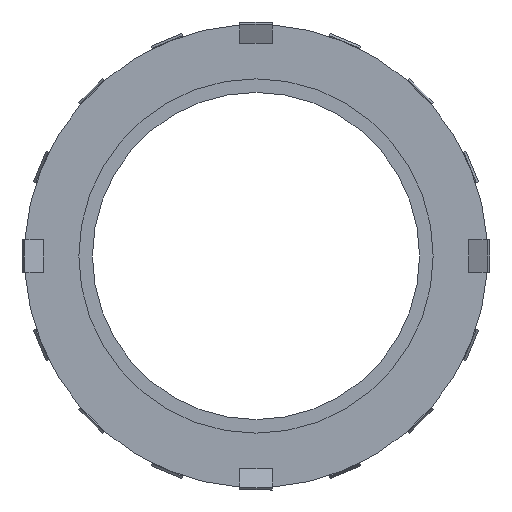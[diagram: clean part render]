
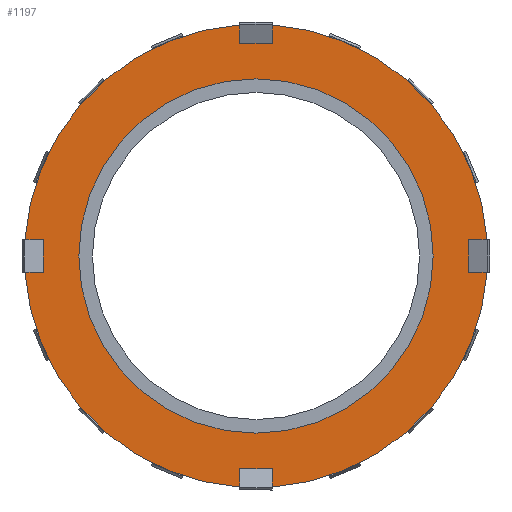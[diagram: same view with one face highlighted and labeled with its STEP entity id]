
A CAD part, left-side view. The second image highlights one B-rep face of the part: STEP entity #1197.
In plain terms, the highlighted planar face has unit normal (-1, 0, 0).
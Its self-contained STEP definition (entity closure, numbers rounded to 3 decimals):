
#870 = VERTEX_POINT ( 'NONE', #2933 ) ;
#872 = EDGE_CURVE ( 'NONE', #870, #873, #2904, .T. ) ;
#873 = VERTEX_POINT ( 'NONE', #2899 ) ;
#889 = VERTEX_POINT ( 'NONE', #2879 ) ;
#892 = EDGE_CURVE ( 'NONE', #893, #1096, #2923, .T. ) ;
#893 = VERTEX_POINT ( 'NONE', #2919 ) ;
#894 = ORIENTED_EDGE ( 'NONE', *, *, #895, .F. ) ;
#895 = EDGE_CURVE ( 'NONE', #1066, #893, #2918, .T. ) ;
#896 = ORIENTED_EDGE ( 'NONE', *, *, #1013, .T. ) ;
#897 = ORIENTED_EDGE ( 'NONE', *, *, #898, .F. ) ;
#898 = EDGE_CURVE ( 'NONE', #899, #1014, #2914, .T. ) ;
#899 = VERTEX_POINT ( 'NONE', #2910 ) ;
#982 = EDGE_CURVE ( 'NONE', #983, #984, #3082, .T. ) ;
#983 = VERTEX_POINT ( 'NONE', #3078 ) ;
#984 = VERTEX_POINT ( 'NONE', #3077 ) ;
#1013 = EDGE_CURVE ( 'NONE', #1066, #1014, #3023, .T. ) ;
#1014 = VERTEX_POINT ( 'NONE', #3019 ) ;
#1066 = VERTEX_POINT ( 'NONE', #3304 ) ;
#1094 = ORIENTED_EDGE ( 'NONE', *, *, #1183, .F. ) ;
#1095 = EDGE_CURVE ( 'NONE', #1096, #984, #3287, .T. ) ;
#1096 = VERTEX_POINT ( 'NONE', #3283 ) ;
#1116 = ORIENTED_EDGE ( 'NONE', *, *, #892, .F. ) ;
#1126 = ORIENTED_EDGE ( 'NONE', *, *, #1127, .F. ) ;
#1127 = EDGE_CURVE ( 'NONE', #1234, #1233, #3372, .T. ) ;
#1128 = ORIENTED_EDGE ( 'NONE', *, *, #1261, .F. ) ;
#1154 = EDGE_CURVE ( 'NONE', #1155, #889, #3250, .T. ) ;
#1155 = VERTEX_POINT ( 'NONE', #3245 ) ;
#1157 = ORIENTED_EDGE ( 'NONE', *, *, #982, .T. ) ;
#1158 = VERTEX_POINT ( 'NONE', #3239 ) ;
#1159 = EDGE_CURVE ( 'NONE', #983, #1212, #3343, .T. ) ;
#1161 = ORIENTED_EDGE ( 'NONE', *, *, #1095, .F. ) ;
#1183 = EDGE_CURVE ( 'NONE', #1158, #899, #3464, .T. ) ;
#1197 = ADVANCED_FACE ( 'NONE', ( #3578, #3577 ), #3576, .F. ) ;
#1198 = EDGE_LOOP ( 'NONE', ( #1199, #1200 ) ) ;
#1199 = ORIENTED_EDGE ( 'NONE', *, *, #1215, .F. ) ;
#1200 = ORIENTED_EDGE ( 'NONE', *, *, #872, .F. ) ;
#1206 = EDGE_CURVE ( 'NONE', #1207, #1208, #3534, .T. ) ;
#1207 = VERTEX_POINT ( 'NONE', #3493 ) ;
#1208 = VERTEX_POINT ( 'NONE', #3492 ) ;
#1209 = EDGE_LOOP ( 'NONE', ( #1210, #1214, #1157, #1161, #1116, #894, #896, #897, #1094, #1238, #1230, #1231, #1126, #1128, #1262, #1263 ) ) ;
#1210 = ORIENTED_EDGE ( 'NONE', *, *, #1211, .F. ) ;
#1211 = EDGE_CURVE ( 'NONE', #1212, #1213, #3491, .T. ) ;
#1212 = VERTEX_POINT ( 'NONE', #3487 ) ;
#1213 = VERTEX_POINT ( 'NONE', #3486 ) ;
#1214 = ORIENTED_EDGE ( 'NONE', *, *, #1159, .F. ) ;
#1215 = EDGE_CURVE ( 'NONE', #873, #870, #3485, .T. ) ;
#1230 = ORIENTED_EDGE ( 'NONE', *, *, #1206, .T. ) ;
#1231 = ORIENTED_EDGE ( 'NONE', *, *, #1232, .F. ) ;
#1232 = EDGE_CURVE ( 'NONE', #1233, #1208, #3406, .T. ) ;
#1233 = VERTEX_POINT ( 'NONE', #3402 ) ;
#1234 = VERTEX_POINT ( 'NONE', #3401 ) ;
#1238 = ORIENTED_EDGE ( 'NONE', *, *, #1286, .F. ) ;
#1261 = EDGE_CURVE ( 'NONE', #1155, #1234, #3469, .T. ) ;
#1262 = ORIENTED_EDGE ( 'NONE', *, *, #1154, .T. ) ;
#1263 = ORIENTED_EDGE ( 'NONE', *, *, #1264, .F. ) ;
#1264 = EDGE_CURVE ( 'NONE', #1213, #889, #3461, .T. ) ;
#1286 = EDGE_CURVE ( 'NONE', #1207, #1158, #3542, .T. ) ;
#2879 = CARTESIAN_POINT ( 'NONE',  ( 9., 3., -42.394 ) ) ;
#2899 = CARTESIAN_POINT ( 'NONE',  ( 9., 0., 32.5 ) ) ;
#2900 = DIRECTION ( 'NONE',  ( 0., 0., 1. ) ) ;
#2901 = DIRECTION ( 'NONE',  ( -1., 0., 0. ) ) ;
#2902 = CARTESIAN_POINT ( 'NONE',  ( 9., 0., 0. ) ) ;
#2903 = AXIS2_PLACEMENT_3D ( 'NONE', #2902, #2901, #2900 ) ;
#2904 = CIRCLE ( 'NONE', #2903, 32.5 ) ;
#2910 = CARTESIAN_POINT ( 'NONE',  ( 9., -3., 39. ) ) ;
#2911 = DIRECTION ( 'NONE',  ( 0., 0., 1. ) ) ;
#2912 = VECTOR ( 'NONE', #2911, 1000. ) ;
#2913 = CARTESIAN_POINT ( 'NONE',  ( 9., -3., 42.394 ) ) ;
#2914 = LINE ( 'NONE', #2913, #2912 ) ;
#2915 = DIRECTION ( 'NONE',  ( 0., 1., 0. ) ) ;
#2916 = VECTOR ( 'NONE', #2915, 1000. ) ;
#2917 = CARTESIAN_POINT ( 'NONE',  ( 9., -42.394, 3. ) ) ;
#2918 = LINE ( 'NONE', #2917, #2916 ) ;
#2919 = CARTESIAN_POINT ( 'NONE',  ( 9., -39., 3. ) ) ;
#2920 = DIRECTION ( 'NONE',  ( 0., 0., -1. ) ) ;
#2921 = VECTOR ( 'NONE', #2920, 1000. ) ;
#2922 = CARTESIAN_POINT ( 'NONE',  ( 9., -39., 3. ) ) ;
#2923 = LINE ( 'NONE', #2922, #2921 ) ;
#2933 = CARTESIAN_POINT ( 'NONE',  ( 9., 0., -32.5 ) ) ;
#3019 = CARTESIAN_POINT ( 'NONE',  ( 9., -3., 42.394 ) ) ;
#3020 = DIRECTION ( 'NONE',  ( 0., 0., 1. ) ) ;
#3021 = DIRECTION ( 'NONE',  ( -1., 0., 0. ) ) ;
#3022 = AXIS2_PLACEMENT_3D ( 'NONE', #3039, #3021, #3020 ) ;
#3023 = CIRCLE ( 'NONE', #3022, 42.5 ) ;
#3039 = CARTESIAN_POINT ( 'NONE',  ( 9., 0., 0. ) ) ;
#3077 = CARTESIAN_POINT ( 'NONE',  ( 9., -42.394, -3. ) ) ;
#3078 = CARTESIAN_POINT ( 'NONE',  ( 9., -3., -42.394 ) ) ;
#3079 = DIRECTION ( 'NONE',  ( 0., 0., 1. ) ) ;
#3080 = DIRECTION ( 'NONE',  ( -1., 0., 0. ) ) ;
#3081 = AXIS2_PLACEMENT_3D ( 'NONE', #3087, #3080, #3079 ) ;
#3082 = CIRCLE ( 'NONE', #3081, 42.5 ) ;
#3087 = CARTESIAN_POINT ( 'NONE',  ( 9., 0., 0. ) ) ;
#3239 = CARTESIAN_POINT ( 'NONE',  ( 9., 3., 39. ) ) ;
#3245 = CARTESIAN_POINT ( 'NONE',  ( 9., 42.394, -3. ) ) ;
#3246 = DIRECTION ( 'NONE',  ( 0., 0., 1. ) ) ;
#3247 = DIRECTION ( 'NONE',  ( -1., 0., 0. ) ) ;
#3248 = CARTESIAN_POINT ( 'NONE',  ( 9., 0., 0. ) ) ;
#3249 = AXIS2_PLACEMENT_3D ( 'NONE', #3248, #3247, #3246 ) ;
#3250 = CIRCLE ( 'NONE', #3249, 42.5 ) ;
#3283 = CARTESIAN_POINT ( 'NONE',  ( 9., -39., -3. ) ) ;
#3284 = DIRECTION ( 'NONE',  ( 0., -1., 0. ) ) ;
#3285 = VECTOR ( 'NONE', #3284, 1000. ) ;
#3286 = CARTESIAN_POINT ( 'NONE',  ( 9., -42.394, -3. ) ) ;
#3287 = LINE ( 'NONE', #3286, #3285 ) ;
#3304 = CARTESIAN_POINT ( 'NONE',  ( 9., -42.394, 3. ) ) ;
#3340 = DIRECTION ( 'NONE',  ( 0., 0., 1. ) ) ;
#3341 = VECTOR ( 'NONE', #3340, 1000. ) ;
#3342 = CARTESIAN_POINT ( 'NONE',  ( 9., -3., -42.394 ) ) ;
#3343 = LINE ( 'NONE', #3342, #3341 ) ;
#3369 = DIRECTION ( 'NONE',  ( 0., 0., 1. ) ) ;
#3370 = VECTOR ( 'NONE', #3369, 1000. ) ;
#3371 = CARTESIAN_POINT ( 'NONE',  ( 9., 39., -3. ) ) ;
#3372 = LINE ( 'NONE', #3371, #3370 ) ;
#3401 = CARTESIAN_POINT ( 'NONE',  ( 9., 39., -3. ) ) ;
#3402 = CARTESIAN_POINT ( 'NONE',  ( 9., 39., 3. ) ) ;
#3403 = DIRECTION ( 'NONE',  ( 0., 1., 0. ) ) ;
#3404 = VECTOR ( 'NONE', #3403, 1000. ) ;
#3405 = CARTESIAN_POINT ( 'NONE',  ( 9., 42.394, 3. ) ) ;
#3406 = LINE ( 'NONE', #3405, #3404 ) ;
#3458 = DIRECTION ( 'NONE',  ( 0., 0., -1. ) ) ;
#3459 = VECTOR ( 'NONE', #3458, 1000. ) ;
#3460 = CARTESIAN_POINT ( 'NONE',  ( 9., 3., -42.394 ) ) ;
#3461 = LINE ( 'NONE', #3460, #3459 ) ;
#3462 = DIRECTION ( 'NONE',  ( 0., -1., 0. ) ) ;
#3463 = VECTOR ( 'NONE', #3462, 1000. ) ;
#3464 = LINE ( 'NONE', #3582, #3584 ) ;
#3469 = LINE ( 'NONE', #3474, #3463 ) ;
#3474 = CARTESIAN_POINT ( 'NONE',  ( 9., 42.394, -3. ) ) ;
#3481 = DIRECTION ( 'NONE',  ( 0., 0., 1. ) ) ;
#3482 = DIRECTION ( 'NONE',  ( -1., 0., 0. ) ) ;
#3483 = CARTESIAN_POINT ( 'NONE',  ( 9., 0., 0. ) ) ;
#3484 = AXIS2_PLACEMENT_3D ( 'NONE', #3483, #3482, #3481 ) ;
#3485 = CIRCLE ( 'NONE', #3484, 32.5 ) ;
#3486 = CARTESIAN_POINT ( 'NONE',  ( 9., 3., -39. ) ) ;
#3487 = CARTESIAN_POINT ( 'NONE',  ( 9., -3., -39. ) ) ;
#3488 = DIRECTION ( 'NONE',  ( 0., 1., 0. ) ) ;
#3489 = VECTOR ( 'NONE', #3488, 1000. ) ;
#3490 = CARTESIAN_POINT ( 'NONE',  ( 9., -3., -39. ) ) ;
#3491 = LINE ( 'NONE', #3490, #3489 ) ;
#3492 = CARTESIAN_POINT ( 'NONE',  ( 9., 42.394, 3. ) ) ;
#3493 = CARTESIAN_POINT ( 'NONE',  ( 9., 3., 42.394 ) ) ;
#3526 = DIRECTION ( 'NONE',  ( 0., 0., -1. ) ) ;
#3527 = DIRECTION ( 'NONE',  ( 1., 0., 0. ) ) ;
#3528 = CARTESIAN_POINT ( 'NONE',  ( 9., 42.5, 0. ) ) ;
#3529 = AXIS2_PLACEMENT_3D ( 'NONE', #3528, #3527, #3526 ) ;
#3530 = DIRECTION ( 'NONE',  ( 0., 0., 1. ) ) ;
#3531 = DIRECTION ( 'NONE',  ( -1., 0., 0. ) ) ;
#3532 = CARTESIAN_POINT ( 'NONE',  ( 9., 0., 0. ) ) ;
#3533 = AXIS2_PLACEMENT_3D ( 'NONE', #3532, #3531, #3530 ) ;
#3534 = CIRCLE ( 'NONE', #3533, 42.5 ) ;
#3539 = DIRECTION ( 'NONE',  ( 0., 0., -1. ) ) ;
#3540 = VECTOR ( 'NONE', #3539, 1000. ) ;
#3541 = CARTESIAN_POINT ( 'NONE',  ( 9., 3., 42.394 ) ) ;
#3542 = LINE ( 'NONE', #3541, #3540 ) ;
#3576 = PLANE ( 'NONE',  #3529 ) ;
#3577 = FACE_OUTER_BOUND ( 'NONE', #1209, .T. ) ;
#3578 = FACE_BOUND ( 'NONE', #1198, .T. ) ;
#3582 = CARTESIAN_POINT ( 'NONE',  ( 9., 3., 39. ) ) ;
#3583 = DIRECTION ( 'NONE',  ( 0., -1., 0. ) ) ;
#3584 = VECTOR ( 'NONE', #3583, 1000. ) ;
